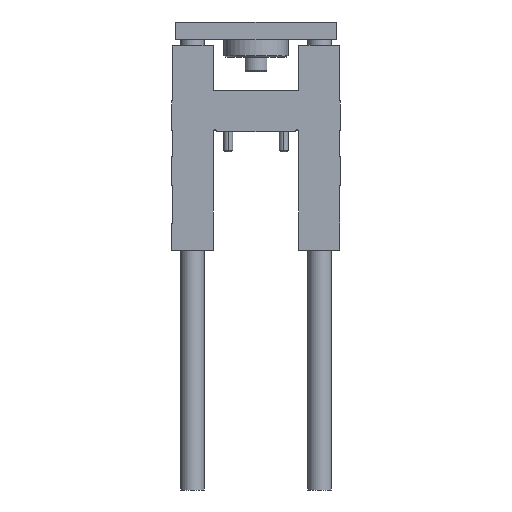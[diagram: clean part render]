
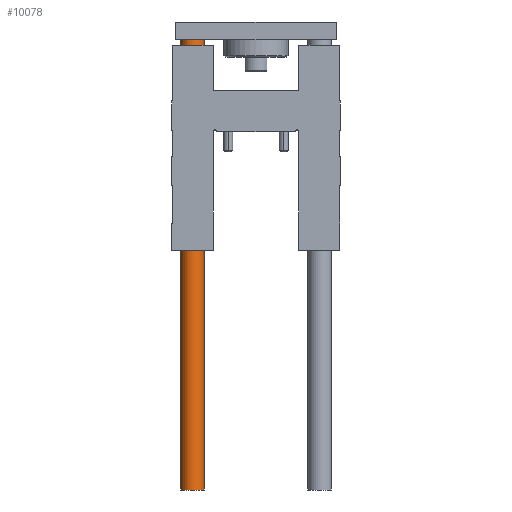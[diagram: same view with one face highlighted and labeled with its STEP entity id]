
A CAD part, front view. The second image highlights one B-rep face of the part: STEP entity #10078.
In plain terms, the highlighted cylindrical face has radius 8 mm (diameter 16 mm), a partial arc.
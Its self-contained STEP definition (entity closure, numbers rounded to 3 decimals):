
#241 = LINE ( 'NONE', #8049, #6223 ) ;
#411 = EDGE_CURVE ( 'NONE', #5805, #2308, #8163, .T. ) ;
#1370 = DIRECTION ( 'NONE',  ( 0., 0., 1. ) ) ;
#1520 = AXIS2_PLACEMENT_3D ( 'NONE', #8455, #7052, #10119 ) ;
#1894 = FACE_OUTER_BOUND ( 'NONE', #4078, .T. ) ;
#2308 = VERTEX_POINT ( 'NONE', #3559 ) ;
#2438 = DIRECTION ( 'NONE',  ( 0., 0., -1. ) ) ;
#2584 = CIRCLE ( 'NONE', #5404, 8. ) ;
#2793 = DIRECTION ( 'NONE',  ( 0., 0., -1. ) ) ;
#3559 = CARTESIAN_POINT ( 'NONE',  ( -35.5, 0., -245. ) ) ;
#3715 = DIRECTION ( 'NONE',  ( 1., 0., 0. ) ) ;
#4078 = EDGE_LOOP ( 'NONE', ( #5044, #4324, #6966, #8740 ) ) ;
#4324 = ORIENTED_EDGE ( 'NONE', *, *, #7929, .T. ) ;
#4928 = AXIS2_PLACEMENT_3D ( 'NONE', #8444, #2793, #9948 ) ;
#5044 = ORIENTED_EDGE ( 'NONE', *, *, #7463, .F. ) ;
#5358 = CARTESIAN_POINT ( 'NONE',  ( -51.5, 0., -245. ) ) ;
#5404 = AXIS2_PLACEMENT_3D ( 'NONE', #9788, #1370, #3715 ) ;
#5465 = LINE ( 'NONE', #5358, #7899 ) ;
#5805 = VERTEX_POINT ( 'NONE', #6728 ) ;
#5927 = VERTEX_POINT ( 'NONE', #10215 ) ;
#6116 = CARTESIAN_POINT ( 'NONE',  ( -35.5, 0., 63. ) ) ;
#6223 = VECTOR ( 'NONE', #2438, 1000. ) ;
#6728 = CARTESIAN_POINT ( 'NONE',  ( -51.5, 0., -245. ) ) ;
#6799 = EDGE_CURVE ( 'NONE', #9826, #2308, #241, .T. ) ;
#6859 = DIRECTION ( 'NONE',  ( 0., 0., -1. ) ) ;
#6966 = ORIENTED_EDGE ( 'NONE', *, *, #411, .T. ) ;
#7052 = DIRECTION ( 'NONE',  ( 0., 0., 1. ) ) ;
#7463 = EDGE_CURVE ( 'NONE', #5927, #9826, #2584, .T. ) ;
#7899 = VECTOR ( 'NONE', #6859, 1000. ) ;
#7929 = EDGE_CURVE ( 'NONE', #5927, #5805, #5465, .T. ) ;
#8049 = CARTESIAN_POINT ( 'NONE',  ( -35.5, 0., -245. ) ) ;
#8163 = CIRCLE ( 'NONE', #1520, 8. ) ;
#8289 = CYLINDRICAL_SURFACE ( 'NONE', #4928, 8. ) ;
#8444 = CARTESIAN_POINT ( 'NONE',  ( -43.5, 0., -245. ) ) ;
#8455 = CARTESIAN_POINT ( 'NONE',  ( -43.5, 0., -245. ) ) ;
#8740 = ORIENTED_EDGE ( 'NONE', *, *, #6799, .F. ) ;
#9788 = CARTESIAN_POINT ( 'NONE',  ( -43.5, 0., 63. ) ) ;
#9826 = VERTEX_POINT ( 'NONE', #6116 ) ;
#9948 = DIRECTION ( 'NONE',  ( 1., 0., 0. ) ) ;
#10078 = ADVANCED_FACE ( 'NONE', ( #1894 ), #8289, .T. ) ;
#10119 = DIRECTION ( 'NONE',  ( 1., 0., 0. ) ) ;
#10215 = CARTESIAN_POINT ( 'NONE',  ( -51.5, 0., 63. ) ) ;
